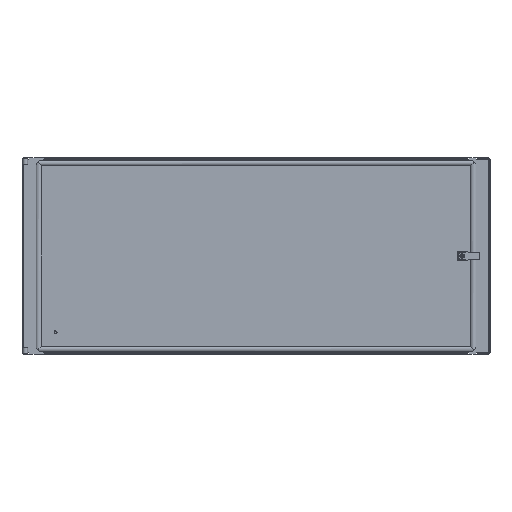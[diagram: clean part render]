
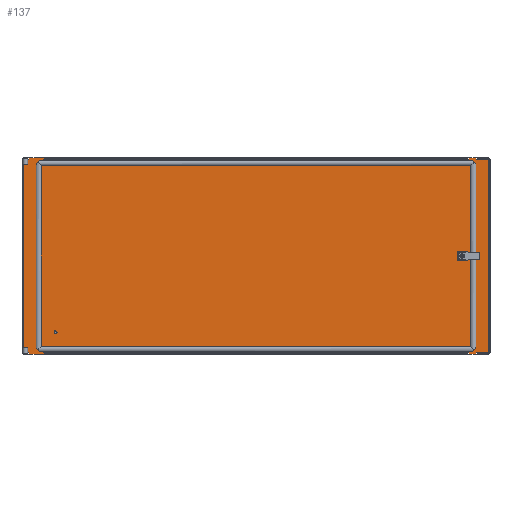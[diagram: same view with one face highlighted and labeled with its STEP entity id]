
A CAD part, top view. The second image highlights one B-rep face of the part: STEP entity #137.
In plain terms, the highlighted planar face has unit normal (0, 0, 1).
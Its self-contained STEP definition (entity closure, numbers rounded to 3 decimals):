
#137=ADVANCED_FACE('',(#702,#704,#706),#708,.T.);
#702=FACE_BOUND('',#703,.T.);
#703=EDGE_LOOP('',(#3435,#3436,#3437,#3438,#3439,#3440,#3441,#3442,#3443,#3444,#3445,
#3446,#3447,#3448,#3449,#3450,#3451,#3452,#3453,#3454,#3455,#3456,#3457,#3458,#3459,
#3460,#3461,#3462));
#704=FACE_BOUND('',#705,.T.);
#705=EDGE_LOOP('',(#3463));
#706=FACE_BOUND('',#707,.T.);
#707=EDGE_LOOP('',(#3464,#3465,#3466,#3467));
#708=PLANE('',#709);
#709=AXIS2_PLACEMENT_3D('',#710,#711,#712);
#710=CARTESIAN_POINT('',(0.,0.,2.));
#711=DIRECTION('',(0.,0.,1.));
#712=DIRECTION('',(1.,0.,0.));
#3435=ORIENTED_EDGE('',*,*,#5245,.F.);
#3436=ORIENTED_EDGE('',*,*,#5225,.F.);
#3437=ORIENTED_EDGE('',*,*,#5152,.F.);
#3438=ORIENTED_EDGE('',*,*,#5246,.F.);
#3439=ORIENTED_EDGE('',*,*,#5247,.F.);
#3440=ORIENTED_EDGE('',*,*,#5248,.F.);
#3441=ORIENTED_EDGE('',*,*,#5249,.F.);
#3442=ORIENTED_EDGE('',*,*,#5221,.F.);
#3443=ORIENTED_EDGE('',*,*,#5156,.F.);
#3444=ORIENTED_EDGE('',*,*,#5250,.F.);
#3445=ORIENTED_EDGE('',*,*,#5251,.F.);
#3446=ORIENTED_EDGE('',*,*,#5252,.F.);
#3447=ORIENTED_EDGE('',*,*,#5253,.F.);
#3448=ORIENTED_EDGE('',*,*,#5254,.F.);
#3449=ORIENTED_EDGE('',*,*,#5255,.F.);
#3450=ORIENTED_EDGE('',*,*,#5176,.F.);
#3451=ORIENTED_EDGE('',*,*,#5149,.F.);
#3452=ORIENTED_EDGE('',*,*,#5256,.T.);
#3453=ORIENTED_EDGE('',*,*,#5257,.T.);
#3454=ORIENTED_EDGE('',*,*,#5258,.T.);
#3455=ORIENTED_EDGE('',*,*,#5143,.F.);
#3456=ORIENTED_EDGE('',*,*,#5174,.F.);
#3457=ORIENTED_EDGE('',*,*,#5141,.F.);
#3458=ORIENTED_EDGE('',*,*,#5259,.T.);
#3459=ORIENTED_EDGE('',*,*,#5260,.T.);
#3460=ORIENTED_EDGE('',*,*,#5261,.T.);
#3461=ORIENTED_EDGE('',*,*,#5135,.F.);
#3462=ORIENTED_EDGE('',*,*,#5182,.F.);
#3463=ORIENTED_EDGE('',*,*,#5133,.F.);
#3464=ORIENTED_EDGE('',*,*,#5262,.F.);
#3465=ORIENTED_EDGE('',*,*,#5263,.F.);
#3466=ORIENTED_EDGE('',*,*,#5264,.F.);
#3467=ORIENTED_EDGE('',*,*,#5265,.F.);
#5133=EDGE_CURVE('',#6052,#6052,#6053,.T.);
#5135=EDGE_CURVE('',#6056,#6057,#6058,.T.);
#5141=EDGE_CURVE('',#6067,#6069,#6070,.T.);
#5143=EDGE_CURVE('',#6072,#6073,#6074,.T.);
#5149=EDGE_CURVE('',#6083,#6085,#6086,.T.);
#5152=EDGE_CURVE('',#6088,#6091,#6092,.T.);
#5156=EDGE_CURVE('',#6096,#6099,#6100,.T.);
#5174=EDGE_CURVE('',#6069,#6072,#6129,.T.);
#5176=EDGE_CURVE('',#6085,#6132,#6133,.T.);
#5182=EDGE_CURVE('',#6141,#6056,#6143,.T.);
#5221=EDGE_CURVE('',#6099,#6206,#6207,.T.);
#5225=EDGE_CURVE('',#6091,#6213,#6214,.T.);
#5245=EDGE_CURVE('',#6213,#6141,#6244,.T.);
#5246=EDGE_CURVE('',#6245,#6088,#6246,.T.);
#5247=EDGE_CURVE('',#6247,#6245,#6248,.T.);
#5248=EDGE_CURVE('',#6249,#6247,#6250,.T.);
#5249=EDGE_CURVE('',#6206,#6249,#6251,.T.);
#5250=EDGE_CURVE('',#6252,#6096,#6253,.T.);
#5251=EDGE_CURVE('',#6254,#6252,#6255,.T.);
#5252=EDGE_CURVE('',#6256,#6254,#6257,.T.);
#5253=EDGE_CURVE('',#6258,#6256,#6259,.T.);
#5254=EDGE_CURVE('',#6260,#6258,#6261,.T.);
#5255=EDGE_CURVE('',#6132,#6260,#6262,.T.);
#5256=EDGE_CURVE('',#6083,#6263,#6264,.T.);
#5257=EDGE_CURVE('',#6263,#6265,#6266,.T.);
#5258=EDGE_CURVE('',#6265,#6073,#6267,.T.);
#5259=EDGE_CURVE('',#6067,#6268,#6269,.T.);
#5260=EDGE_CURVE('',#6268,#6270,#6271,.T.);
#5261=EDGE_CURVE('',#6270,#6057,#6272,.T.);
#5262=EDGE_CURVE('',#6273,#6274,#6275,.T.);
#5263=EDGE_CURVE('',#6276,#6273,#6277,.T.);
#5264=EDGE_CURVE('',#6278,#6276,#6279,.T.);
#5265=EDGE_CURVE('',#6274,#6278,#6280,.T.);
#6052=VERTEX_POINT('',#7567);
#6053=CIRCLE('',#7568,0.5);
#6056=VERTEX_POINT('',#7577);
#6057=VERTEX_POINT('',#7578);
#6058=LINE('',#7579,#7580);
#6067=VERTEX_POINT('',#7598);
#6069=VERTEX_POINT('',#7602);
#6070=LINE('',#7603,#7604);
#6072=VERTEX_POINT('',#7609);
#6073=VERTEX_POINT('',#7610);
#6074=LINE('',#7611,#7612);
#6083=VERTEX_POINT('',#7630);
#6085=VERTEX_POINT('',#7634);
#6086=LINE('',#7635,#7636);
#6088=VERTEX_POINT('',#7641);
#6091=VERTEX_POINT('',#7646);
#6092=LINE('',#7647,#7648);
#6096=VERTEX_POINT('',#7657);
#6099=VERTEX_POINT('',#7662);
#6100=LINE('',#7663,#7664);
#6129=LINE('',#7762,#7763);
#6132=VERTEX_POINT('',#7770);
#6133=LINE('',#7771,#7772);
#6141=VERTEX_POINT('',#7803);
#6143=LINE('',#7820,#7821);
#6206=VERTEX_POINT('',#7979);
#6207=LINE('',#7980,#7981);
#6213=VERTEX_POINT('',#7996);
#6214=LINE('',#7997,#7998);
#6244=LINE('',#8080,#8081);
#6245=VERTEX_POINT('',#8083);
#6246=LINE('',#8084,#8085);
#6247=VERTEX_POINT('',#8087);
#6248=LINE('',#8088,#8089);
#6249=VERTEX_POINT('',#8091);
#6250=LINE('',#8092,#8093);
#6251=LINE('',#8095,#8096);
#6252=VERTEX_POINT('',#8098);
#6253=LINE('',#8099,#8100);
#6254=VERTEX_POINT('',#8102);
#6255=LINE('',#8103,#8104);
#6256=VERTEX_POINT('',#8106);
#6257=LINE('',#8107,#8108);
#6258=VERTEX_POINT('',#8110);
#6259=LINE('',#8111,#8112);
#6260=VERTEX_POINT('',#8114);
#6261=LINE('',#8115,#8116);
#6262=LINE('',#8118,#8119);
#6263=VERTEX_POINT('',#8121);
#6264=LINE('',#8122,#8123);
#6265=VERTEX_POINT('',#8125);
#6266=LINE('',#8126,#8127);
#6267=LINE('',#8129,#8130);
#6268=VERTEX_POINT('',#8132);
#6269=LINE('',#8133,#8134);
#6270=VERTEX_POINT('',#8136);
#6271=LINE('',#8137,#8138);
#6272=LINE('',#8140,#8141);
#6273=VERTEX_POINT('',#8143);
#6274=VERTEX_POINT('',#8144);
#6275=LINE('',#8145,#8146);
#6276=VERTEX_POINT('',#8148);
#6277=LINE('',#8149,#8150);
#6278=VERTEX_POINT('',#8152);
#6279=LINE('',#8153,#8154);
#6280=LINE('',#8156,#8157);
#7567=CARTESIAN_POINT('',(-507.7,-193.5,2.));
#7568=AXIS2_PLACEMENT_3D('',#7569,#7570,#7571);
#7569=CARTESIAN_POINT('',(-508.2,-193.5,2.));
#7570=DIRECTION('',(0.,0.,1.));
#7571=DIRECTION('',(-1.,0.,0.));
#7577=CARTESIAN_POINT('',(560.7,-245.1,2.));
#7578=CARTESIAN_POINT('',(558.7,-245.1,2.));
#7579=CARTESIAN_POINT('',(560.7,-245.1,2.));
#7580=VECTOR('',#7581,1.);
#7581=DIRECTION('',(-1.,0.,0.));
#7598=CARTESIAN_POINT('',(539.2,-245.1,2.));
#7602=CARTESIAN_POINT('',(537.2,-245.1,2.));
#7603=CARTESIAN_POINT('',(539.2,-245.1,2.));
#7604=VECTOR('',#7605,1.);
#7605=DIRECTION('',(-1.,0.,0.));
#7609=CARTESIAN_POINT('',(-536.2,-245.1,2.));
#7610=CARTESIAN_POINT('',(-538.2,-245.1,2.));
#7611=CARTESIAN_POINT('',(-536.2,-245.1,2.));
#7612=VECTOR('',#7613,1.);
#7613=DIRECTION('',(-1.,0.,0.));
#7630=CARTESIAN_POINT('',(-576.2,-245.1,2.));
#7634=CARTESIAN_POINT('',(-578.2,-245.1,2.));
#7635=CARTESIAN_POINT('',(-576.2,-245.1,2.));
#7636=VECTOR('',#7637,1.);
#7637=DIRECTION('',(-1.,0.,0.));
#7641=CARTESIAN_POINT('',(558.7,245.1,2.));
#7646=CARTESIAN_POINT('',(560.7,245.1,2.));
#7647=CARTESIAN_POINT('',(558.7,245.1,2.));
#7648=VECTOR('',#7649,1.);
#7649=DIRECTION('',(1.,0.,0.));
#7657=CARTESIAN_POINT('',(-538.2,245.1,2.));
#7662=CARTESIAN_POINT('',(-536.2,245.1,2.));
#7663=CARTESIAN_POINT('',(-538.2,245.1,2.));
#7664=VECTOR('',#7665,1.);
#7665=DIRECTION('',(1.,0.,0.));
#7762=CARTESIAN_POINT('',(537.2,-245.1,2.));
#7763=VECTOR('',#7764,1.);
#7764=DIRECTION('',(-1.,0.,0.));
#7770=CARTESIAN_POINT('',(-589.8,-245.1,2.));
#7771=CARTESIAN_POINT('',(-578.2,-245.1,2.));
#7772=VECTOR('',#7773,1.);
#7773=DIRECTION('',(-1.,0.,0.));
#7803=CARTESIAN_POINT('',(589.8,-245.1,2.));
#7820=CARTESIAN_POINT('',(589.8,-245.1,2.));
#7821=VECTOR('',#7822,1.);
#7822=DIRECTION('',(-1.,0.,0.));
#7979=CARTESIAN_POINT('',(537.2,245.1,2.));
#7980=CARTESIAN_POINT('',(-536.2,245.1,2.));
#7981=VECTOR('',#7982,1.);
#7982=DIRECTION('',(1.,0.,0.));
#7996=CARTESIAN_POINT('',(589.8,245.1,2.));
#7997=CARTESIAN_POINT('',(560.7,245.1,2.));
#7998=VECTOR('',#7999,1.);
#7999=DIRECTION('',(1.,0.,0.));
#8080=CARTESIAN_POINT('',(589.8,245.1,2.));
#8081=VECTOR('',#8082,1.);
#8082=DIRECTION('',(0.,-1.,0.));
#8083=CARTESIAN_POINT('',(558.7,248.5,2.));
#8084=CARTESIAN_POINT('',(558.7,248.5,2.));
#8085=VECTOR('',#8086,1.);
#8086=DIRECTION('',(0.,-1.,0.));
#8087=CARTESIAN_POINT('',(539.2,248.5,2.));
#8088=CARTESIAN_POINT('',(539.2,248.5,2.));
#8089=VECTOR('',#8090,1.);
#8090=DIRECTION('',(1.,0.,0.));
#8091=CARTESIAN_POINT('',(539.2,245.1,2.));
#8092=CARTESIAN_POINT('',(539.2,245.1,2.));
#8093=VECTOR('',#8094,1.);
#8094=DIRECTION('',(0.,1.,0.));
#8095=CARTESIAN_POINT('',(537.2,245.1,2.));
#8096=VECTOR('',#8097,1.);
#8097=DIRECTION('',(1.,0.,0.));
#8098=CARTESIAN_POINT('',(-538.2,248.5,2.));
#8099=CARTESIAN_POINT('',(-538.2,248.5,2.));
#8100=VECTOR('',#8101,1.);
#8101=DIRECTION('',(0.,-1.,0.));
#8102=CARTESIAN_POINT('',(-576.2,248.5,2.));
#8103=CARTESIAN_POINT('',(-576.2,248.5,2.));
#8104=VECTOR('',#8105,1.);
#8105=DIRECTION('',(1.,0.,0.));
#8106=CARTESIAN_POINT('',(-576.2,245.1,2.));
#8107=CARTESIAN_POINT('',(-576.2,245.1,2.));
#8108=VECTOR('',#8109,1.);
#8109=DIRECTION('',(0.,1.,0.));
#8110=CARTESIAN_POINT('',(-578.2,245.1,2.));
#8111=CARTESIAN_POINT('',(-578.2,245.1,2.));
#8112=VECTOR('',#8113,1.);
#8113=DIRECTION('',(1.,0.,0.));
#8114=CARTESIAN_POINT('',(-589.8,245.1,2.));
#8115=CARTESIAN_POINT('',(-589.8,245.1,2.));
#8116=VECTOR('',#8117,1.);
#8117=DIRECTION('',(1.,0.,0.));
#8118=CARTESIAN_POINT('',(-589.8,-245.1,2.));
#8119=VECTOR('',#8120,1.);
#8120=DIRECTION('',(0.,1.,0.));
#8121=CARTESIAN_POINT('',(-576.2,-248.5,2.));
#8122=CARTESIAN_POINT('',(-576.2,-245.1,2.));
#8123=VECTOR('',#8124,1.);
#8124=DIRECTION('',(0.,-1.,0.));
#8125=CARTESIAN_POINT('',(-538.2,-248.5,2.));
#8126=CARTESIAN_POINT('',(-576.2,-248.5,2.));
#8127=VECTOR('',#8128,1.);
#8128=DIRECTION('',(1.,0.,0.));
#8129=CARTESIAN_POINT('',(-538.2,-248.5,2.));
#8130=VECTOR('',#8131,1.);
#8131=DIRECTION('',(0.,1.,0.));
#8132=CARTESIAN_POINT('',(539.2,-248.5,2.));
#8133=CARTESIAN_POINT('',(539.2,-245.1,2.));
#8134=VECTOR('',#8135,1.);
#8135=DIRECTION('',(0.,-1.,0.));
#8136=CARTESIAN_POINT('',(558.7,-248.5,2.));
#8137=CARTESIAN_POINT('',(539.2,-248.5,2.));
#8138=VECTOR('',#8139,1.);
#8139=DIRECTION('',(1.,0.,0.));
#8140=CARTESIAN_POINT('',(558.7,-248.5,2.));
#8141=VECTOR('',#8142,1.);
#8142=DIRECTION('',(0.,1.,0.));
#8143=CARTESIAN_POINT('',(533.2,-10.6,2.));
#8144=CARTESIAN_POINT('',(533.2,10.6,2.));
#8145=CARTESIAN_POINT('',(533.2,-10.6,2.));
#8146=VECTOR('',#8147,1.);
#8147=DIRECTION('',(0.,1.,0.));
#8148=CARTESIAN_POINT('',(512.,-10.6,2.));
#8149=CARTESIAN_POINT('',(512.,-10.6,2.));
#8150=VECTOR('',#8151,1.);
#8151=DIRECTION('',(1.,0.,0.));
#8152=CARTESIAN_POINT('',(512.,10.6,2.));
#8153=CARTESIAN_POINT('',(512.,10.6,2.));
#8154=VECTOR('',#8155,1.);
#8155=DIRECTION('',(0.,-1.,0.));
#8156=CARTESIAN_POINT('',(533.2,10.6,2.));
#8157=VECTOR('',#8158,1.);
#8158=DIRECTION('',(-1.,0.,0.));
